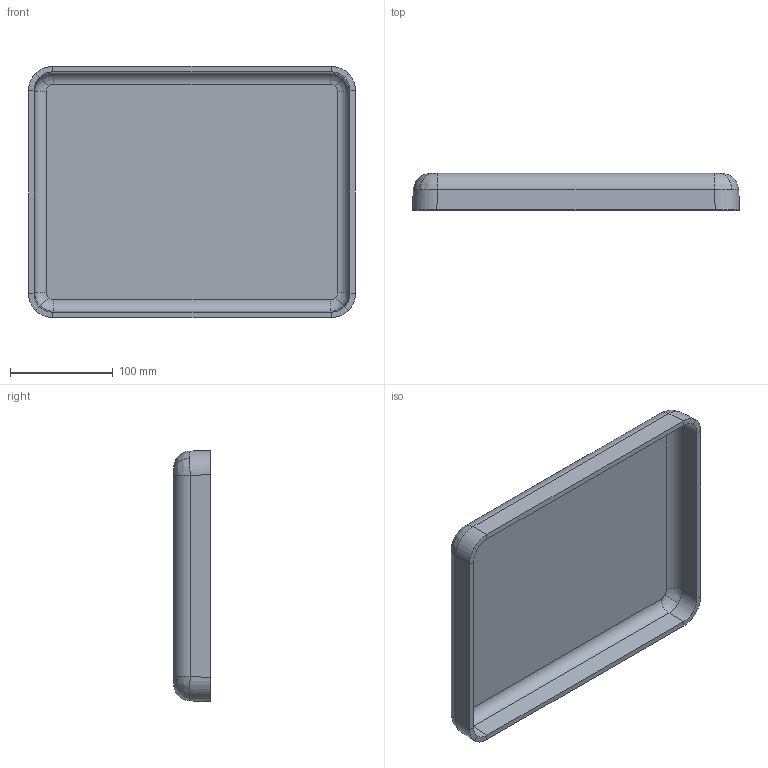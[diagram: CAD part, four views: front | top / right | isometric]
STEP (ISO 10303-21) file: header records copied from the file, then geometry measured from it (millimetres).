
FILE_DESCRIPTION (( 'STEP AP214' ), '1' );
FILE_NAME ('1400 Peli Case Top.STEP', '2016-01-11T01:52:43', ( '' ), ( '' ), 'SwSTEP 2.0', 'SolidWorks 2014', '' );
FILE_SCHEMA (( 'AUTOMOTIVE_DESIGN' ));
Length unit declared in the file: inch
Products named in the file (1): 1400 Peli Case Top
Bounding box: 318 x 35.81 x 244.34 mm (x, y, z)
Volume: 545850 mm3; surface area: 210418.6 mm2
Topology: 1 solids, 1 shells, 54 faces, 124 edges, 72 vertices
Faces by surface type: bspline 24, cylinder 16, plane 14
Entity records: 2104 total; most frequent: CARTESIAN_POINT 1087, ORIENTED_EDGE 248, DIRECTION 158, EDGE_CURVE 124, VERTEX_POINT 72, AXIS2_PLACEMENT_3D 55, ADVANCED_FACE 54, FACE_OUTER_BOUND 54
